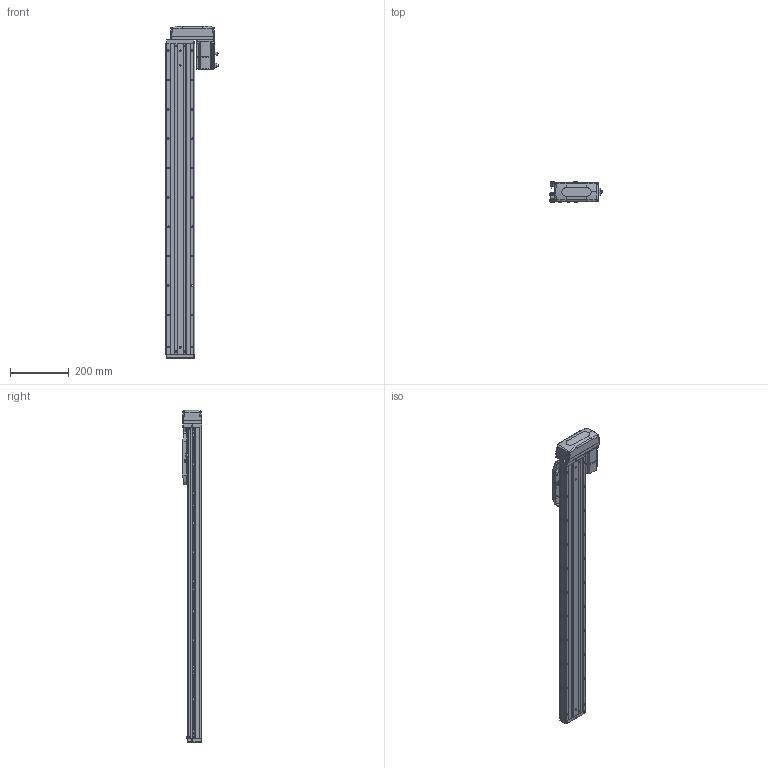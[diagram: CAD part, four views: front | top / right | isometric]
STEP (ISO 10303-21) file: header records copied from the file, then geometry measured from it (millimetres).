
FILE_DESCRIPTION (( 'STEP AP203' ), '1' );
FILE_NAME ('CTHA100-850-BL-M20-C4L.step', '2022-07-06T08:58:54', ( '微软用户' ), ( '微软中国' ), 'SwSTEP 2.0', 'SolidWorks 2020', '' );
FILE_SCHEMA (( 'CONFIG_CONTROL_DESIGN' ));
Length unit declared in the file: millimetre
Products named in the file (19): KTHA100-004; GBT 70.1-M3℅6; KTHA100-005; GBT 70.3-M3℅6; GBT70.1 M5℅16; GB¨uT 70.2-M3¡Á5_M3¡Á6; CTHA86-015-1_CTHA86-015-2; CTHA60-016; EE_SX911P_R; CTHA86-033; _X2_4E0983F1_X0_200W_1; CTHA60-017; CTHA100-850-BL-M20-C4L; CTHA100-002; CTHA60-021; CTHA100-031; KTHA100-001_1060; GBT77-2000 M3×3; CTHA86-030
Assembly tree (64 placements, depth 2):
  CTHA100-850-BL-M20-C4L
    KTHA100-001_1060
    KTHA100-004
    KTHA100-005
    GB¨uT 70.2-M3¡Á5_M3¡Á6  x10
    EE_SX911P_R  x3
    CTHA60-017  x3
    CTHA60-021  x2
    GBT77-2000 M3×3  x6
    GBT 70.1-M3℅6  x10
    GBT70.1 M5℅16  x14
    CTHA60-016  x2
    _X2_4E0983F1_X0_200W_1
    CTHA100-002
    CTHA100-031
    CTHA86-030  x2
    GBT 70.3-M3℅6  x4
    CTHA86-015-1_CTHA86-015-2
    CTHA86-033
Bounding box: 177.7 x 68 x 1131 mm (x, y, z)
Volume: 4581712.7 mm3; surface area: 762445.7 mm2
Topology: 66 solids, 66 shells, 2729 faces, 6583 edges, 4084 vertices
Faces by surface type: plane 1428, cylinder 719, cone 359, torus 124, bspline 75, sphere 24
Entity records: 47930 total; most frequent: CARTESIAN_POINT 9371, DIRECTION 7424, ORIENTED_EDGE 7282, EDGE_CURVE 3641, AXIS2_PLACEMENT_3D 2509, VECTOR 2406, LINE 2406, VERTEX_POINT 2304
